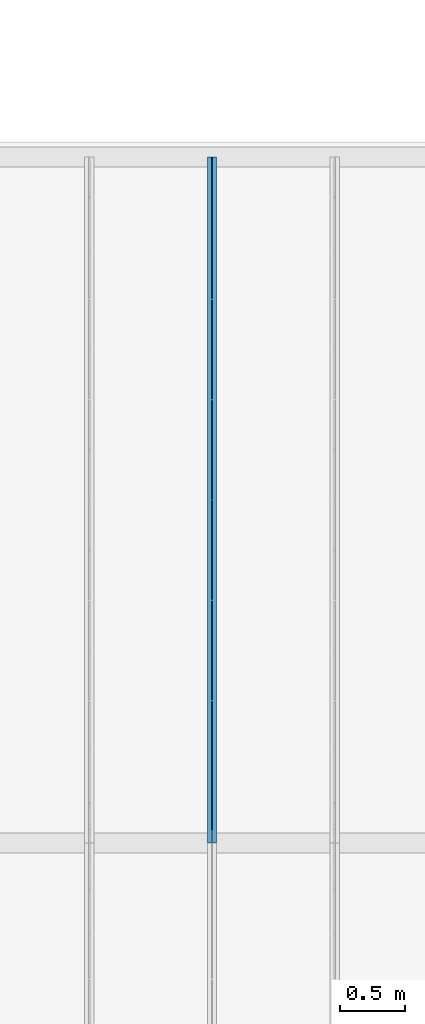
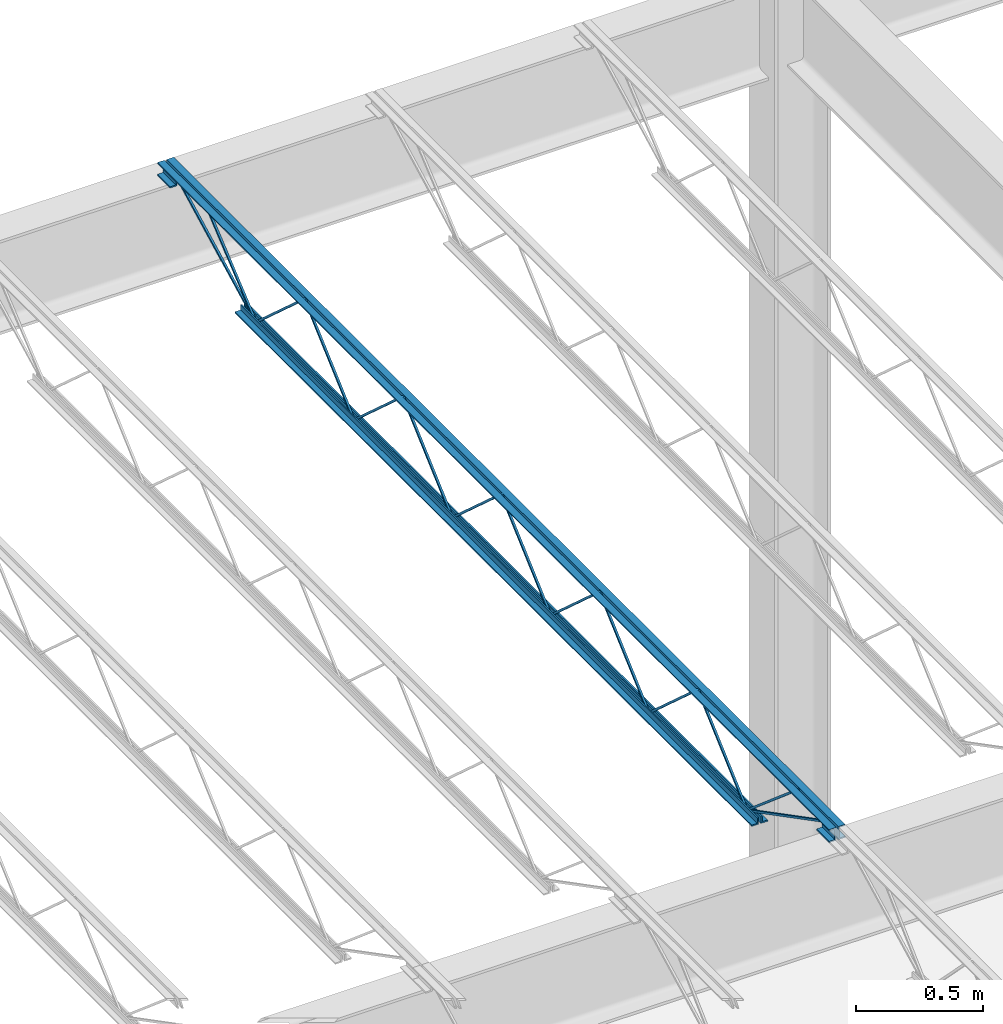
# One storey, part 110 of 119: 1 beam.
"""IFC2X3 building model written with IfcOpenShell, lengths in metres."""

from ifc_helpers import new_model, entity, si_unit, converted_unit, frame, origin, place, context, project, spatial, face_set, surface_model, element, save


model = new_model("IFC2X3")

# Units and contexts
model_context = context("Model", 3, precision=1e-09, world=origin())
plan_context = context("Plan", 3, precision=1e-09, world=origin())
ifc_project = project(units=[si_unit("LENGTHUNIT", "METRE"), si_unit("AREAUNIT", "SQUARE_METRE"), si_unit("VOLUMEUNIT", "CUBIC_METRE"), converted_unit("PLANEANGLEUNIT", "DEGREE", entity("IfcRatioMeasure", 0.01745329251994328), si_unit("PLANEANGLEUNIT", "RADIAN"), dimensions=[0, 0, 0, 0, 0, 0, 0]), si_unit("TIMEUNIT", "SECOND")], contexts=[model_context, plan_context])

# Site, building, storey
site_placement = place(None, origin())
site = spatial("IfcSite", under=ifc_project, at=site_placement, Name="Default", CompositionType="ELEMENT")
building_placement = place(site_placement, origin())
building = spatial("IfcBuilding", under=site, at=building_placement, CompositionType="ELEMENT")
storey_placement = place(building_placement, frame((0.0, 0.0, 4.570000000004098)))
storey = spatial("IfcBuildingStorey", under=building, at=storey_placement, Name="Second Floor", CompositionType="ELEMENT", Elevation=4.570000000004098)

# Beam
beam_placement = place(storey_placement, frame((-10.16674062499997, 44.78049999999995, 4.323999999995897), z_axis=(0.0, 0.0, 1.0), x_axis=(-1.0, 0.0, 0.0)))
element("IfcBeam", 1, at=beam_placement, inside=storey, Name="M_K-Series Bar Joist-Rod Web:14K1:14K1", ObjectType="M_K-Series Bar Joist-Rod Web:14K1", context=model_context, shape_type="SurfaceModel", body=[
    surface_model("IfcFaceBasedSurfaceModel", [(-0.0320000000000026, -2.266000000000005, 0.01110000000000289), (-0.04150000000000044, -2.266000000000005, 0.01110000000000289), (-0.04150000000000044, -2.266000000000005, 0.001600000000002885), (-0.0320000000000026, -2.266000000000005, 0.001600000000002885), (-0.04150000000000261, -2.264645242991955, 0.01110000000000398), (-0.0320000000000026, -2.264645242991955, 0.01110000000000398), (-0.04150000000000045, -2.261004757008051, 0.001600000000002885), (-0.04149999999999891, -1.878854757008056, 0.3449000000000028), (-0.04149999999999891, -1.876145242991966, 0.3449000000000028), (-0.04149999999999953, -1.493995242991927, 0.001600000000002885), (-0.04149999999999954, -1.489000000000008, 0.001600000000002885), (-0.04149999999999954, -1.489000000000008, 0.01110000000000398), (-0.04149999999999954, -1.490354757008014, 0.01110000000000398), (-0.04150000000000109, -1.872504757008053, 0.3544000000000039), (-0.04150000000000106, -1.88249524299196, 0.3544000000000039), (-0.03200000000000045, -2.261004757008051, 0.001600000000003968), (-0.03200000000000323, -1.878854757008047, 0.3449000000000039), (-0.03200000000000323, -1.876145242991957, 0.3449000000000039), (-0.0320000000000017, -1.493995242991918, 0.001600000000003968), (-0.03200000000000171, -1.489000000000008, 0.001600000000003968), (-0.03200000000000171, -1.489000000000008, 0.01110000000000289), (-0.0320000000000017, -1.490354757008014, 0.01110000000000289), (-0.03200000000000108, -1.872504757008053, 0.3544000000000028), (-0.03200000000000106, -1.88249524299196, 0.3544000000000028), (-0.03200000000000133, -3.043000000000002, 0.01110000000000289), (-0.04149999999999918, -3.043000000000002, 0.01110000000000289), (-0.04149999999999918, -3.043000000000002, 0.001600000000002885), (-0.03200000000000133, -3.043000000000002, 0.001600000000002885), (-0.04150000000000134, -3.041645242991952, 0.01110000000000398), (-0.03200000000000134, -3.041645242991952, 0.01110000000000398), (-0.04149999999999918, -3.038004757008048, 0.001600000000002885), (-0.0414999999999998, -2.655854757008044, 0.3449000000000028), (-0.04149999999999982, -2.653145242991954, 0.3449000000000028), (-0.04150000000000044, -2.270995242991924, 0.001600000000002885), (-0.04149999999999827, -2.266000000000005, 0.01110000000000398), (-0.04149999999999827, -2.267354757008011, 0.01110000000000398), (-0.04149999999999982, -2.649504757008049, 0.3544000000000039), (-0.0414999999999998, -2.659495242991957, 0.3544000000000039), (-0.03199999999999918, -3.038004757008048, 0.001600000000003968), (-0.03200000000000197, -2.655854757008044, 0.3449000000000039), (-0.03200000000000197, -2.653145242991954, 0.3449000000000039), (-0.03200000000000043, -2.270995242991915, 0.001600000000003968), (-0.03200000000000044, -2.266000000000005, 0.001600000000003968), (-0.0320000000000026, -2.267354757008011, 0.01110000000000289), (-0.03200000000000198, -2.649504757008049, 0.3544000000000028), (-0.03200000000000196, -2.659495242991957, 0.3544000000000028), (-0.03200000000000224, -3.819999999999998, 0.01110000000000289), (-0.04150000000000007, -3.819999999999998, 0.01110000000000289), (-0.04150000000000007, -3.819999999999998, 0.001600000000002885), (-0.03200000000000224, -3.819999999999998, 0.001600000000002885), (-0.04150000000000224, -3.818645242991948, 0.01110000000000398), (-0.03200000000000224, -3.818645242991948, 0.01110000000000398), (-0.04150000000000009, -3.815004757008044, 0.001600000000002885), (-0.0415000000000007, -3.432854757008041, 0.3449000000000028), (-0.04150000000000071, -3.43014524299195, 0.3449000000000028), (-0.04149999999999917, -3.047995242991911, 0.001600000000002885), (-0.04149999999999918, -3.042999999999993, 0.001600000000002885), (-0.04149999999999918, -3.043000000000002, 0.01110000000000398), (-0.04149999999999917, -3.044354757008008, 0.01110000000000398), (-0.04150000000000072, -3.426504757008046, 0.3544000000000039), (-0.0415000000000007, -3.436495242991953, 0.3544000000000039), (-0.03200000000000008, -3.815004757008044, 0.001600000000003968), (-0.03200000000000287, -3.432854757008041, 0.3449000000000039), (-0.03200000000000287, -3.43014524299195, 0.3449000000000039), (-0.03200000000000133, -3.047995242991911, 0.001600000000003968), (-0.03200000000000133, -3.043000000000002, 0.001600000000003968), (-0.03200000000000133, -3.042999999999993, 0.01110000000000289), (-0.03200000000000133, -3.044354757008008, 0.01110000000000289), (-0.03200000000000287, -3.426504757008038, 0.3544000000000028), (-0.03200000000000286, -3.436495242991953, 0.3544000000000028), (-0.03200000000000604, -1.489000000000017, 0.01109999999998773), (-0.04150000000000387, -1.489000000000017, 0.01109999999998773), (-0.04150000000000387, -1.489000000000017, 0.001599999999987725), (-0.03200000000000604, -1.489000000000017, 0.001599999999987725), (-0.04150000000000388, -1.487645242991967, 0.01109999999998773), (-0.03200000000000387, -1.487645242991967, 0.01109999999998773), (-0.04150000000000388, -1.484004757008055, 0.001599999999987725), (-0.04150000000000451, -1.101854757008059, 0.3448999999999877), (-0.04150000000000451, -1.099145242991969, 0.3448999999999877), (-0.04150000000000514, -0.7169952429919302, 0.001599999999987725), (-0.04150000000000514, -0.7120000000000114, 0.001599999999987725), (-0.04150000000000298, -0.7120000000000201, 0.01109999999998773), (-0.04150000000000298, -0.7133547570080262, 0.01109999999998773), (-0.04150000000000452, -1.095504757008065, 0.3543999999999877), (-0.0415000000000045, -1.105495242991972, 0.3543999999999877), (-0.03200000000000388, -1.484004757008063, 0.001599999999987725), (-0.0320000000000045, -1.101854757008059, 0.3448999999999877), (-0.0320000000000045, -1.099145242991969, 0.3448999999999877), (-0.03200000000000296, -0.7169952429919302, 0.001599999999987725), (-0.03200000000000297, -0.7120000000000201, 0.001599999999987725), (-0.0320000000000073, -0.7120000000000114, 0.01109999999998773), (-0.03200000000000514, -0.7133547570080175, 0.01109999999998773), (-0.03200000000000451, -1.095504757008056, 0.3543999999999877), (-0.0320000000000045, -1.105495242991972, 0.3543999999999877), (-0.03200000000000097, -4.596999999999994, 0.01110000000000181), (-0.04149999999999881, -4.596999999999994, 0.01110000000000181), (-0.04149999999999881, -4.596999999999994, 0.001600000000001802), (-0.03200000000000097, -4.596999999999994, 0.001600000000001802), (-0.04150000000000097, -4.595645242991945, 0.01110000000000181), (-0.03200000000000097, -4.595645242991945, 0.01110000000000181), (-0.04149999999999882, -4.592004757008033, 0.001600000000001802), (-0.04149999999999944, -4.209854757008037, 0.3449000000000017), (-0.04149999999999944, -4.207145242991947, 0.3449000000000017), (-0.04150000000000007, -3.824995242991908, 0.001600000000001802), (-0.04150000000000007, -3.819999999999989, 0.001600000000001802), (-0.04149999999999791, -3.819999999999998, 0.01110000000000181), (-0.04149999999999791, -3.821354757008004, 0.01110000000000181), (-0.04149999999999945, -4.203504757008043, 0.3544000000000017), (-0.04149999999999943, -4.21349524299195, 0.3544000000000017), (-0.03199999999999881, -4.592004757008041, 0.001600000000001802), (-0.0320000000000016, -4.209854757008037, 0.3449000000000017), (-0.0320000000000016, -4.207145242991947, 0.3449000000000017), (-0.03200000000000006, -3.824995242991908, 0.001600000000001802), (-0.03200000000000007, -3.819999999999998, 0.001600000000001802), (-0.03200000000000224, -3.819999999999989, 0.01110000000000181), (-0.03200000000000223, -3.821354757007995, 0.01110000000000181), (-0.03200000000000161, -4.203504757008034, 0.3544000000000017), (-0.03200000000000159, -4.213495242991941, 0.3544000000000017), (-0.04150000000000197, 0.0, 0.3559999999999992), (-0.07350000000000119, 0.0, 0.3559999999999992), (-0.07350000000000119, 0.0, 0.3494999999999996), (-0.04800000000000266, 0.0, 0.3494999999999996), (-0.04800000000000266, 0.0, 0.3239999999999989), (-0.04150000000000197, 0.0, 0.3239999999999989), (-0.03200000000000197, 0.0, 0.3559999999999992), (-0.03200000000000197, 0.0, 0.3239999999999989), (-0.02550000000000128, 0.0, 0.3239999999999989), (-0.02550000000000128, 0.0, 0.3494999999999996), (0.0, 0.0, 0.3494999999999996), (0.0, 0.0, 0.3559999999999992), (-0.04150000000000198, -5.308999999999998, 0.3559999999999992), (-0.0735000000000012, -5.308999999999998, 0.3559999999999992), (-0.0735000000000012, -5.308999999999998, 0.3494999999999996), (-0.04800000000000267, -5.308999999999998, 0.3494999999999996), (-0.04800000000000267, -5.308999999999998, 0.3239999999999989), (-0.04150000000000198, -5.308999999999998, 0.3239999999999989), (-0.03200000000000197, -5.308999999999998, 0.3559999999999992), (-0.03200000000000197, -5.308999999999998, 0.3239999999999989), (-0.02550000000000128, -5.308999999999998, 0.3239999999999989), (-0.02550000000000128, -5.308999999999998, 0.3494999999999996), (0.0, -5.308999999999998, 0.3494999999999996), (0.0, -5.308999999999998, 0.3559999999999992), (-0.03200000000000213, -5.209000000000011, 0.2924999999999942), (0.0, -5.209000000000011, 0.2924999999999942), (0.0, -5.209000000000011, 0.2989999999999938), (-0.02550000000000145, -5.209000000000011, 0.2989999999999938), (-0.02550000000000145, -5.209000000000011, 0.3239999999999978), (-0.03200000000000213, -5.209000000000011, 0.3239999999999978), (-0.07350000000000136, -5.209000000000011, 0.2924999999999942), (-0.04150000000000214, -5.209000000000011, 0.2924999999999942), (-0.04150000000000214, -5.209000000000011, 0.3239999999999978), (-0.04800000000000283, -5.209000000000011, 0.3239999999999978), (-0.04800000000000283, -5.209000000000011, 0.2989999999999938), (-0.07350000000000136, -5.209000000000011, 0.2989999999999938), (-0.03200000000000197, -5.308999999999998, 0.2924999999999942), (0.0, -5.308999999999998, 0.2924999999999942), (0.0, -5.308999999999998, 0.2989999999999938), (-0.02550000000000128, -5.308999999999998, 0.2989999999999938), (-0.02550000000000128, -5.308999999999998, 0.3239999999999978), (-0.03200000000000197, -5.308999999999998, 0.3239999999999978), (-0.0735000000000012, -5.308999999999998, 0.2924999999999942), (-0.04150000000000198, -5.308999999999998, 0.2924999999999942), (-0.04150000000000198, -5.308999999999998, 0.3239999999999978), (-0.04800000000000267, -5.308999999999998, 0.3239999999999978), (-0.04800000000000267, -5.308999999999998, 0.2989999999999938), (-0.0735000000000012, -5.308999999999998, 0.2989999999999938), (-0.04150000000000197, 0.0, 0.2924999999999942), (-0.04150000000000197, 0.0, 0.3239999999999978), (-0.04800000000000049, 0.0, 0.3239999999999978), (-0.04800000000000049, 0.0, 0.2989999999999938), (-0.07350000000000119, 0.0, 0.2989999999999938), (-0.07350000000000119, 0.0, 0.2924999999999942), (-0.03200000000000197, 0.0, 0.2924999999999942), (0.0, 0.0, 0.2924999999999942), (0.0, 0.0, 0.2989999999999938), (-0.02550000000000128, 0.0, 0.2989999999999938), (-0.02550000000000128, 0.0, 0.3239999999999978), (-0.03200000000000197, 0.0, 0.3239999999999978), (-0.04150000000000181, -0.0999999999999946, 0.2924999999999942), (-0.04150000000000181, -0.0999999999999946, 0.3239999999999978), (-0.04800000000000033, -0.0999999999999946, 0.3239999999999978), (-0.04800000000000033, -0.0999999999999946, 0.2989999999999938), (-0.07350000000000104, -0.0999999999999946, 0.2989999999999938), (-0.07350000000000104, -0.0999999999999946, 0.2924999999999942), (-0.03200000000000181, -0.0999999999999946, 0.2924999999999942), (0.0, -0.0999999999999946, 0.2924999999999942), (0.0, -0.0999999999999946, 0.2989999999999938), (-0.02550000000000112, -0.0999999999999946, 0.2989999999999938), (-0.02550000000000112, -0.0999999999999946, 0.3239999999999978), (-0.03200000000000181, -0.0999999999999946, 0.3239999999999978), (-0.04150000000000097, -0.6119999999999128, 0.0), (-0.04150000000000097, -0.6119999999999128, 0.03199999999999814), (-0.04800000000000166, -0.6119999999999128, 0.03199999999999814), (-0.04800000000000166, -0.6119999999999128, 0.006499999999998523), (-0.07350000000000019, -0.6119999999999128, 0.006499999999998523), (-0.07350000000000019, -0.6119999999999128, 0.0), (-0.03200000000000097, -0.6119999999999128, 0.0), (0.0, -0.6119999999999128, 0.0), (0.0, -0.6119999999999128, 0.006499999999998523), (-0.02550000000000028, -0.6119999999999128, 0.006499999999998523), (-0.02550000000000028, -0.6119999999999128, 0.03199999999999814), (-0.03200000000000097, -0.6119999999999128, 0.03199999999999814), (-0.04150000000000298, -4.696999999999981, 0.0), (-0.04150000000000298, -4.696999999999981, 0.03199999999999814), (-0.04800000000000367, -4.696999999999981, 0.03199999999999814), (-0.04800000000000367, -4.696999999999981, 0.006499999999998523), (-0.0735000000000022, -4.696999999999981, 0.006499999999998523), (-0.0735000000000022, -4.696999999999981, 0.0), (-0.03200000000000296, -4.696999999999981, 0.0), (0.0, -4.696999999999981, 0.0), (0.0, -4.696999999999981, 0.006499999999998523), (-0.02550000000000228, -4.696999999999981, 0.006499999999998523), (-0.02550000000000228, -4.696999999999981, 0.03199999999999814), (-0.03200000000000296, -4.696999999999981, 0.03199999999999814), (-0.03199999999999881, -4.594811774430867, 0.01056594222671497), (-0.04149999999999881, -4.594811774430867, 0.01056594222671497), (-0.04149999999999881, -4.599188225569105, 0.00213405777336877), (-0.03200000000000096, -4.599188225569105, 0.00213405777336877), (-0.0319999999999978, -5.207840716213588, 0.3287499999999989), (-0.0319999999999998, -5.308999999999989, 0.3287499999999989), (-0.03200000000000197, -5.308999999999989, 0.3192499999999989), (-0.03200000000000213, -5.210159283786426, 0.3192499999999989), (-0.04149999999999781, -5.210159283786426, 0.3192499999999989), (-0.04149999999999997, -5.207840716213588, 0.3287499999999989), (-0.04149999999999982, -5.308999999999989, 0.3287499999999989), (-0.04149999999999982, -5.308999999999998, 0.3192499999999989), (-0.03200000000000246, -5.005457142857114, 0.3417000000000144), (-0.0415000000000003, -5.005457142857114, 0.3417000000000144), (-0.0415000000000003, -5.005457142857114, 0.3322000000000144), (-0.03200000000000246, -5.005457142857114, 0.3322000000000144), (-0.04150000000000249, -4.991034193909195, 0.3417000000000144), (-0.03200000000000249, -4.991034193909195, 0.3417000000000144), (-0.04150000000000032, -4.99448009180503, 0.3322000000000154), (-0.0414999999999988, -4.600045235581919, 0.002704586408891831), (-0.04150000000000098, -4.593954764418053, 0.009995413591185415), (-0.03200000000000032, -4.99448009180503, 0.3322000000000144), (-0.03200000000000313, -4.600045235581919, 0.002704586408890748), (-0.03199999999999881, -4.593954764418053, 0.009995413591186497), (-0.03199999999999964, -0.09781177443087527, 0.3197840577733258), (-0.03200000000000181, -0.1021882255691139, 0.328215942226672), (-0.04150000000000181, -0.1021882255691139, 0.328215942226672), (-0.04149999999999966, -0.09781177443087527, 0.3197840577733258), (-0.03200000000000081, -0.7098117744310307, 0.002134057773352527), (-0.03200000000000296, -0.7141882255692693, 0.01056594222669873), (-0.04150000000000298, -0.7141882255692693, 0.01056594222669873), (-0.04150000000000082, -0.7098117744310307, 0.002134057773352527), (-0.0319999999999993, -0.3059055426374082, 0.3460340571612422), (-0.03200000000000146, -0.3120658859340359, 0.35326594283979), (-0.04150000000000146, -0.3120658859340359, 0.3532659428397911), (-0.04149999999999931, -0.3059055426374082, 0.3460340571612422), (-0.03200000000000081, -0.7089198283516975, 0.002734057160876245), (-0.03200000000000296, -0.7150801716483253, 0.00996594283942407), (-0.04150000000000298, -0.7150801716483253, 0.00996594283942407), (-0.04150000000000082, -0.7089198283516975, 0.002734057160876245)], [face_set([[[0, 1, 2, 3]], [[1, 4, 5, 0]], [[2, 6, 7, 8, 9, 10, 11, 12, 13, 14, 4, 1]], [[3, 2, 6, 15]], [[0, 3, 15, 16, 17, 18, 19, 20, 21, 22, 23, 5]], [[4, 5, 23, 14]], [[15, 16, 7, 6]], [[14, 13, 22, 23]], [[16, 7, 8, 17]], [[13, 12, 21, 22]], [[17, 8, 9, 18]], [[20, 11, 10, 19]], [[12, 11, 20, 21]], [[18, 9, 10, 19]]]), face_set([[[24, 25, 26, 27]], [[25, 28, 29, 24]], [[26, 30, 31, 32, 33, 2, 34, 35, 36, 37, 28, 25]], [[27, 26, 30, 38]], [[24, 27, 38, 39, 40, 41, 42, 0, 43, 44, 45, 29]], [[28, 29, 45, 37]], [[38, 39, 31, 30]], [[37, 36, 44, 45]], [[39, 31, 32, 40]], [[36, 35, 43, 44]], [[40, 32, 33, 41]], [[0, 34, 2, 42]], [[35, 34, 0, 43]], [[41, 33, 2, 42]]]), face_set([[[46, 47, 48, 49]], [[47, 50, 51, 46]], [[48, 52, 53, 54, 55, 56, 57, 58, 59, 60, 50, 47]], [[49, 48, 52, 61]], [[46, 49, 61, 62, 63, 64, 65, 66, 67, 68, 69, 51]], [[50, 51, 69, 60]], [[61, 62, 53, 52]], [[60, 59, 68, 69]], [[62, 53, 54, 63]], [[59, 58, 67, 68]], [[63, 54, 55, 64]], [[66, 57, 56, 65]], [[58, 57, 66, 67]], [[64, 55, 56, 65]]]), face_set([[[70, 71, 72, 73]], [[71, 74, 75, 70]], [[72, 76, 77, 78, 79, 80, 81, 82, 83, 84, 74, 71]], [[73, 72, 76, 85]], [[70, 73, 85, 86, 87, 88, 89, 90, 91, 92, 93, 75]], [[74, 75, 93, 84]], [[85, 86, 77, 76]], [[84, 83, 92, 93]], [[86, 77, 78, 87]], [[83, 82, 91, 92]], [[87, 78, 79, 88]], [[90, 81, 80, 89]], [[82, 81, 90, 91]], [[88, 79, 80, 89]]]), face_set([[[94, 95, 96, 97]], [[95, 98, 99, 94]], [[96, 100, 101, 102, 103, 104, 105, 106, 107, 108, 98, 95]], [[97, 96, 100, 109]], [[94, 97, 109, 110, 111, 112, 113, 114, 115, 116, 117, 99]], [[98, 99, 117, 108]], [[109, 110, 101, 100]], [[108, 107, 116, 117]], [[110, 101, 102, 111]], [[107, 106, 115, 116]], [[111, 102, 103, 112]], [[114, 105, 104, 113]], [[106, 105, 114, 115]], [[112, 103, 104, 113]]]), face_set([[[118, 119, 120, 121, 122, 123]], [[124, 125, 126, 127, 128, 129]], [[130, 131, 132, 133, 134, 135]], [[136, 137, 138, 139, 140, 141]], [[123, 118, 130, 135]], [[122, 123, 135, 134]], [[121, 133, 134, 122]], [[120, 121, 133, 132]], [[119, 131, 132, 120]], [[118, 130, 131, 119]], [[129, 141, 136, 124]], [[128, 129, 141, 140]], [[127, 128, 140, 139]], [[126, 127, 139, 138]], [[125, 126, 138, 137]], [[124, 136, 137, 125]]]), face_set([[[142, 143, 144, 145, 146, 147]], [[148, 149, 150, 151, 152, 153]], [[154, 155, 156, 157, 158, 159]], [[160, 161, 162, 163, 164, 165]], [[147, 159, 154, 142]], [[146, 158, 159, 147]], [[145, 146, 158, 157]], [[144, 156, 157, 145]], [[143, 144, 156, 155]], [[142, 143, 155, 154]], [[153, 165, 160, 148]], [[152, 164, 165, 153]], [[151, 163, 164, 152]], [[150, 162, 163, 151]], [[149, 150, 162, 161]], [[148, 149, 161, 160]]]), face_set([[[166, 167, 168, 169, 170, 171]], [[172, 173, 174, 175, 176, 177]], [[178, 179, 180, 181, 182, 183]], [[184, 185, 186, 187, 188, 189]], [[171, 166, 178, 183]], [[170, 182, 183, 171]], [[169, 181, 182, 170]], [[168, 180, 181, 169]], [[167, 179, 180, 168]], [[166, 167, 179, 178]], [[177, 189, 184, 172]], [[176, 188, 189, 177]], [[175, 176, 188, 187]], [[174, 186, 187, 175]], [[173, 174, 186, 185]], [[172, 173, 185, 184]]]), face_set([[[190, 191, 192, 193, 194, 195]], [[196, 197, 198, 199, 200, 201]], [[202, 203, 204, 205, 206, 207]], [[208, 209, 210, 211, 212, 213]], [[195, 190, 202, 207]], [[194, 206, 207, 195]], [[193, 205, 206, 194]], [[192, 204, 205, 193]], [[191, 203, 204, 192]], [[190, 191, 203, 202]], [[201, 213, 208, 196]], [[200, 212, 213, 201]], [[199, 200, 212, 211]], [[198, 210, 211, 199]], [[197, 198, 210, 209]], [[196, 197, 209, 208]]]), face_set([[[214, 215, 216, 217]], [[217, 214, 218, 219, 220, 221]], [[216, 217, 221, 222]], [[215, 223, 224, 225, 222, 216]], [[214, 218, 223, 215]], [[219, 224, 225, 220]], [[222, 221, 220, 225]], [[218, 219, 224, 223]]]), face_set([[[226, 227, 228, 229]], [[227, 230, 231, 226]], [[228, 232, 233, 234, 230, 227]], [[229, 228, 232, 235]], [[226, 229, 235, 236, 237, 231]], [[237, 234, 233, 236]], [[230, 234, 237, 231]], [[235, 232, 233, 236]]]), face_set([[[238, 239, 240, 241]], [[242, 243, 244, 245]], [[241, 245, 242, 238]], [[240, 244, 245, 241]], [[239, 240, 244, 243]], [[238, 239, 243, 242]]]), face_set([[[246, 247, 248, 249]], [[250, 251, 252, 253]], [[249, 253, 250, 246]], [[248, 252, 253, 249]], [[247, 248, 252, 251]], [[246, 247, 251, 250]]])]),
])

save(model, "model.ifc")
